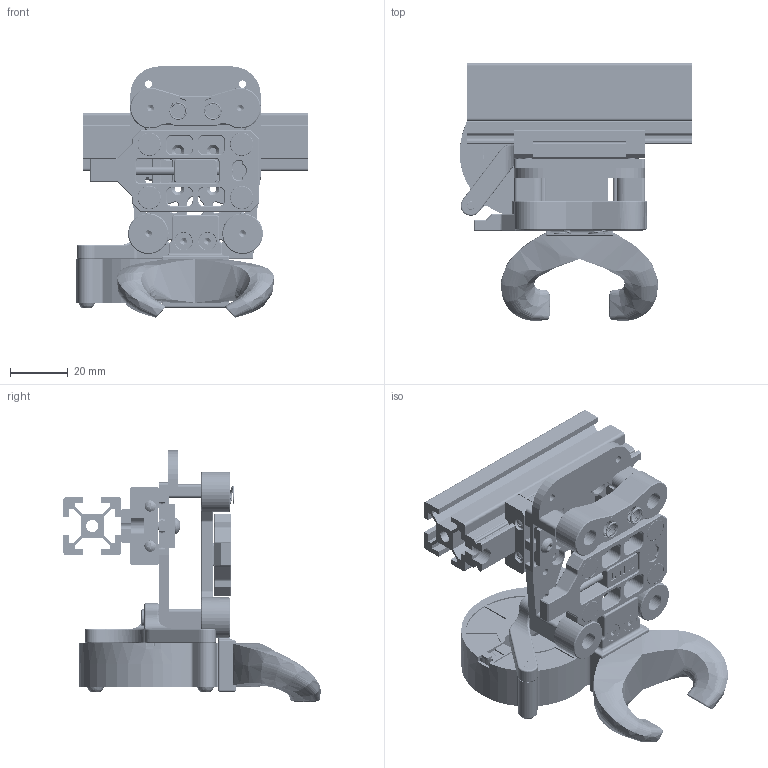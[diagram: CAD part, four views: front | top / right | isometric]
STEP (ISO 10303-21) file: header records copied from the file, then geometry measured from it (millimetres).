
FILE_DESCRIPTION(/* description */ (''),/* implementation_level */ '2;1');
FILE_NAME(/* name */ 'Lineux StealthC Voron CNC Carriage v13.step',/* time_stamp */ '2026-01-29T09:46:35+07:00',/* author */ (''),/* organization */ (''),/* preprocessor_version */ 'ST-DEVELOPER v20.1',/* originating_system */ 'Autodesk Translation Framework v14.24.0.0',/* authorisation */ '');
FILE_SCHEMA (('AUTOMOTIVE_DESIGN { 1 0 10303 214 3 1 1 }'));
Products named in the file (62): Lineux StealthC Voron CNC Carriage; Lineux StealthC Voron CNC Carriage_1; Vitalli Rigid CNC Carriage; Belt Clamp; Belt Clamp_1; M3x6 BHCS; Radial-Cooling-Fan-5015-DC12V v1; turbine; top; bottom; 5015 Mount; m3x5x4mm heat insert; m3 x 20mm bhcs; m3x5x4mm heat insert (1); m3 x 6mm shcs; m3 x 6mm shcs (1); m3 x 20mm bhcs (1); 5015_mount; MGN 12H; PRODUCT_NAME_9 (1)_MGN12H (1)_MGN12 rail (1)_X Axis (MGN12)_Gantry_VO
RON2.4_Assembly(2)_VORON2.4_Assembly.IGS_默认; PRODUCT_NAME_1 (1)_MGN12H (1)_MGN12 rail (1)_X Axis (MGN12)_Gantry_VO
RON2.4_Assembly(2)_VORON2.4_Assembly.IGS_默认; PRODUCT_NAME_5 (1)_MGN12H (1)_MGN12 rail (1)_X Axis (MGN12)_Gantry_VO
RON2.4_Assembly(2)_VORON2.4_Assembly.IGS_默认; PRODUCT_NAME_6 (1)_MGN12H (1)_MGN12 rail (1)_X Axis (MGN12)_Gantry_VO
RON2.4_Assembly(2)_VORON2.4_Assembly.IGS_默认; PRODUCT_NAME_7 (1)_MGN12H (1)_MGN12 rail (1)_X Axis (MGN12)_Gantry_VO
RON2.4_Assembly(2)_VORON2.4_Assembly.IGS_默认; PRODUCT_NAME_4 (1)_MGN12H (1)_MGN12 rail (1)_X Axis (MGN12)_Gantry_VO
RON2.4_Assembly(2)_VORON2.4_Assembly.IGS_默认; PRODUCT_NAME_8 (1)_MGN12H (1)_MGN12 rail (1)_X Axis (MGN12)_Gantry_VO
RON2.4_Assembly(2)_VORON2.4_Assembly.IGS_默认; PRODUCT_NAME_3 (1)_MGN12H (1)_MGN12 rail (1)_X Axis (MGN12)_Gantry_VO
RON2.4_Assembly(2)_VORON2.4_Assembly.IGS_默认; PRODUCT_NAME_2 (1)_MGN12H (1)_MGN12 rail (1)_X Axis (MGN12)_Gantry_VO
RON2.4_Assembly(2)_VORON2.4_Assembly.IGS_默认; mgn 12 rail; 2020 extrusion; Lineux Stealth CNC (3); Lock Plate (5); 8 x 5mm magnet (2) (2) (3); 8 x 5mm magnet (5) (3); 8 x 5mm magnet (1) (2) (3); 8 x 5mm magnet (3) (2) (3); Lock Plate Universal (4); dowel_plug; m3 dowel 40mm (1) (3); Lock Plate (1) (3) ...
Assembly tree (62 placements, depth 5):
  Lineux StealthC Voron CNC Carriage
    Lineux StealthC Voron CNC Carriage_1
      Vitalli Rigid CNC Carriage
        Belt Clamp
          M3x6 BHCS
        Belt Clamp_1
          M3x6 BHCS
      Radial-Cooling-Fan-5015-DC12V v1
        turbine
        top
        bottom
      5015 Mount
        m3x5x4mm heat insert
        m3 x 20mm bhcs
        m3x5x4mm heat insert (1)
        m3 x 6mm shcs
        m3 x 6mm shcs (1)
        m3 x 20mm bhcs (1)
        5015_mount
      MGN 12H
        PRODUCT_NAME_9 (1)_MGN12H (1)_MGN12 rail (1)_X Axis (MGN12)_Gantry_VO
RON2.4_Assembly(2)_VORON2.4_Assembly.IGS_默认
        PRODUCT_NAME_1 (1)_MGN12H (1)_MGN12 rail (1)_X Axis (MGN12)_Gantry_VO
RON2.4_Assembly(2)_VORON2.4_Assembly.IGS_默认
        PRODUCT_NAME_5 (1)_MGN12H (1)_MGN12 rail (1)_X Axis (MGN12)_Gantry_VO
RON2.4_Assembly(2)_VORON2.4_Assembly.IGS_默认
        PRODUCT_NAME_6 (1)_MGN12H (1)_MGN12 rail (1)_X Axis (MGN12)_Gantry_VO
RON2.4_Assembly(2)_VORON2.4_Assembly.IGS_默认
        PRODUCT_NAME_7 (1)_MGN12H (1)_MGN12 rail (1)_X Axis (MGN12)_Gantry_VO
RON2.4_Assembly(2)_VORON2.4_Assembly.IGS_默认
        PRODUCT_NAME_4 (1)_MGN12H (1)_MGN12 rail (1)_X Axis (MGN12)_Gantry_VO
RON2.4_Assembly(2)_VORON2.4_Assembly.IGS_默认
        PRODUCT_NAME_8 (1)_MGN12H (1)_MGN12 rail (1)_X Axis (MGN12)_Gantry_VO
RON2.4_Assembly(2)_VORON2.4_Assembly.IGS_默认
        PRODUCT_NAME_3 (1)_MGN12H (1)_MGN12 rail (1)_X Axis (MGN12)_Gantry_VO
RON2.4_Assembly(2)_VORON2.4_Assembly.IGS_默认
        PRODUCT_NAME_2 (1)_MGN12H (1)_MGN12 rail (1)_X Axis (MGN12)_Gantry_VO
RON2.4_Assembly(2)_VORON2.4_Assembly.IGS_默认
      mgn 12 rail
      2020 extrusion
      Lineux Stealth CNC (3)
        Lock Plate (5)
          8 x 5mm magnet (2) (2) (3)
          8 x 5mm magnet (5) (3)
          8 x 5mm magnet (1) (2) (3)
          8 x 5mm magnet (3) (2) (3)
          Lock Plate Universal (4)
          dowel_plug
          m3 dowel 40mm (1) (3)
          Lock Plate (1) (3)
        Stealth Carrier (5)
          OD8 ID6 SS 3mm Bushing (1) (2)
          OD8 ID6 SS 3mm Bushing (2) (2)
          OD8 ID6 SS 3mm Bushing (3) (2)
          OD8 ID6 SS 3mm Bushing (5)
          bushing_seat_bottom_x2
          bushing_seat_bottom_x2 (1)
          OD5 ID3 15mm SS Bushing (1)
          Stealth Carrier (1) (3)
          bushing_seat_top_left
          bushing_seat_top_right
          spring OD6 ID5 6mm
          spring OD6 ID5 6mm (1)
          m3 x 8mm fhcs (3) (3)
          m3 x 8mm fhcs (2) (3)
          m3 x 8mm fhcs (6)
          m3 x 8mm fhcs (1) (3)
      Duct
        m3 x 8mm fhcs (7)
Bounding box: 80.2 x 88.85 x 86.66 mm (x, y, z)
Volume: 76203.2 mm3; surface area: 88683.9 mm2
Topology: 57 solids, 57 shells, 3115 faces, 8021 edges, 5032 vertices
Faces by surface type: plane 1366, cylinder 1108, cone 316, bspline 249, torus 51, sphere 25
Full cylindrical faces by diameter (mm): 2 x2, 2.2 x6, 2.356 x80, 2.459 x8, 2.5 x14, 2.529 x14, 2.893 x2, 2.927 x78, 3 x101, 3.2 x8, 3.4 x2, 3.5 x2, 4.2 x9, 4.393 x4, 4.5 x6, 5 x3, 5.58 x2, 5.6 x2, 5.65 x2, 5.68 x2, 5.7 x4, 6 x16, 6.5 x4, 8 x20, 12 x4, 14 x2, 22.8 x1, 24.5 x1, 32 x1
Entity records: 195825 total; most frequent: CARTESIAN_POINT 119910, ORIENTED_EDGE 15938, DIRECTION 15075, EDGE_CURVE 7969, AXIS2_PLACEMENT_3D 5507, VERTEX_POINT 5014, LINE 4061, VECTOR 4061
